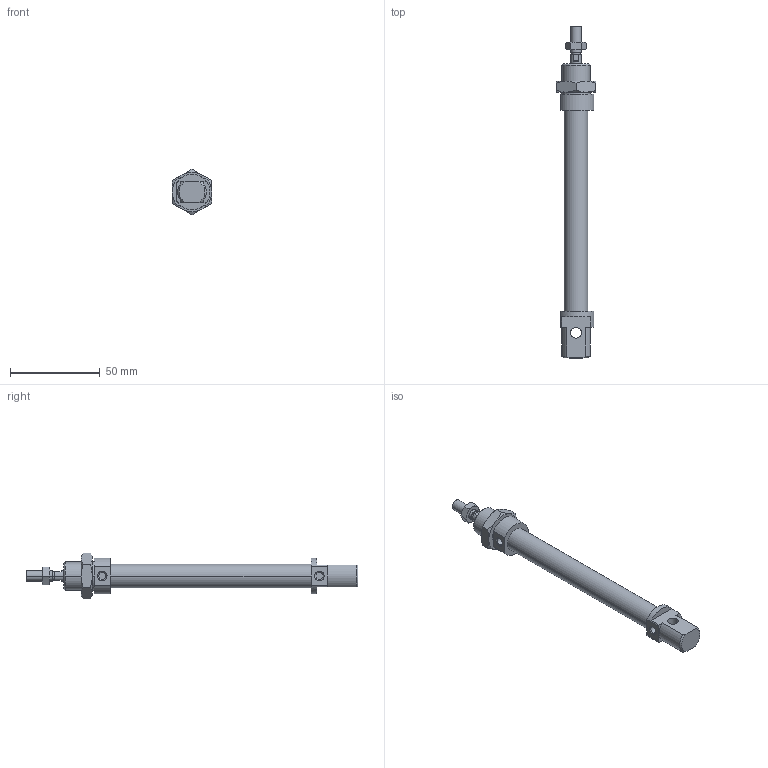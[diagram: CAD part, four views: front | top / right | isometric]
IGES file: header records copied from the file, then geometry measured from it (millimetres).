
Global section: file name: No Iges File Name specified; native system: Autodesk Inventor 2010; preprocessor: AutoDesk Inventor Iges Exporter R2010; author: rivolro1; date: 20090604.093145; units: millimetre
Bounding box: 22 x 185 x 25.4 mm (x, y, z)
Volume: 28379.2 mm3; surface area: 14538.7 mm2
Topology: 4 solids, 4 shells, 107 faces, 236 edges, 144 vertices
Faces by surface type: plane 39, cone 28, bspline 20, cylinder 14, revolution 6
